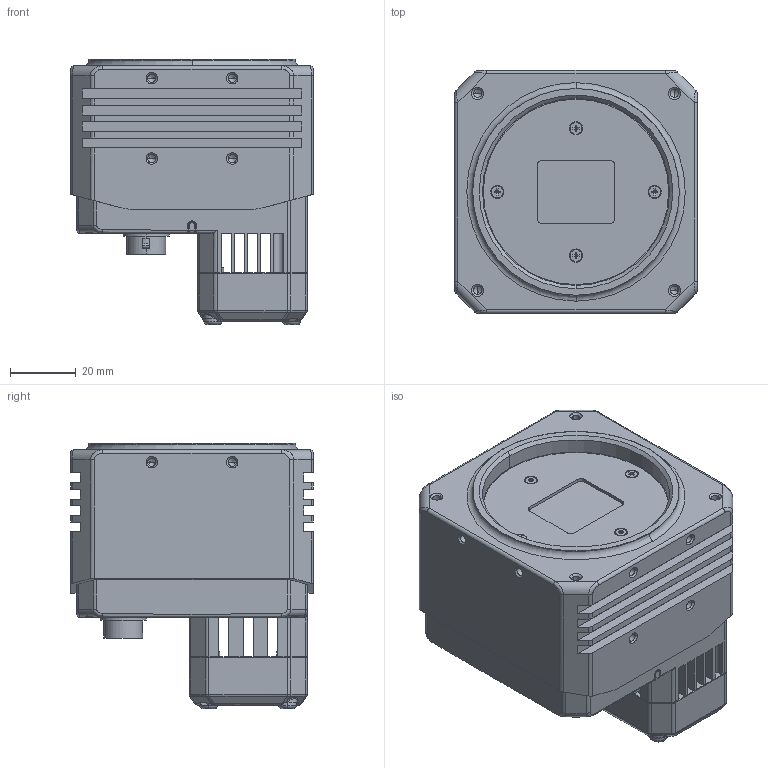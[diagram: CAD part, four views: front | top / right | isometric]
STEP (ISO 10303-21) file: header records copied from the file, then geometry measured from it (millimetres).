
FILE_DESCRIPTION((''),'2;1');
FILE_NAME('ASM0001_ASM','2020-12-24T11:28:34',('gengdawei'),(''),'CREO PARAMETRIC BY PTC INC, 2017260','CREO PARAMETRIC BY PTC INC, 2017260','');
FILE_SCHEMA(('CONFIG_CONTROL_DESIGN'));
Products named in the file (1): ASM0001_ASM
Bounding box: 74 x 74 x 80.83 mm (x, y, z)
Volume: 312552.5 mm3; surface area: 79623.3 mm2
Topology: 14 solids, 20 shells, 2082 faces, 5767 edges, 3739 vertices
Faces by surface type: plane 994, cylinder 668, cone 216, bspline 107, torus 65, extrusion 28, revolution 4
Entity records: 80131 total; most frequent: CARTESIAN_POINT 26804, ORIENTED_EDGE 11418, DIRECTION 10922, EDGE_CURVE 5709, AXIS2_PLACEMENT_3D 3857, VERTEX_POINT 3739, VECTOR 3204, LINE 3176
